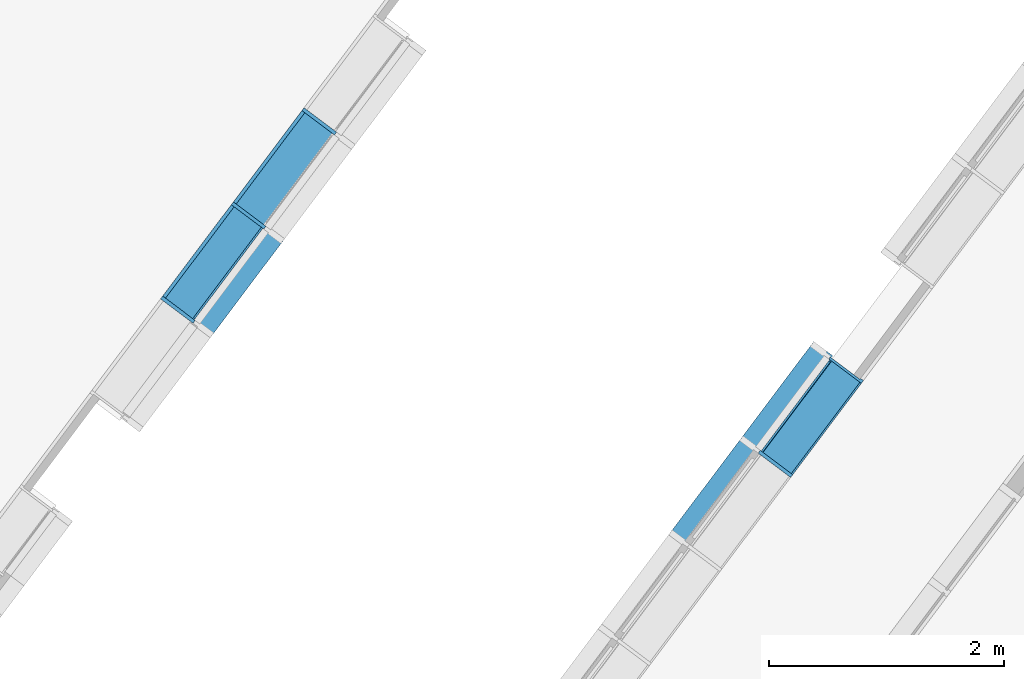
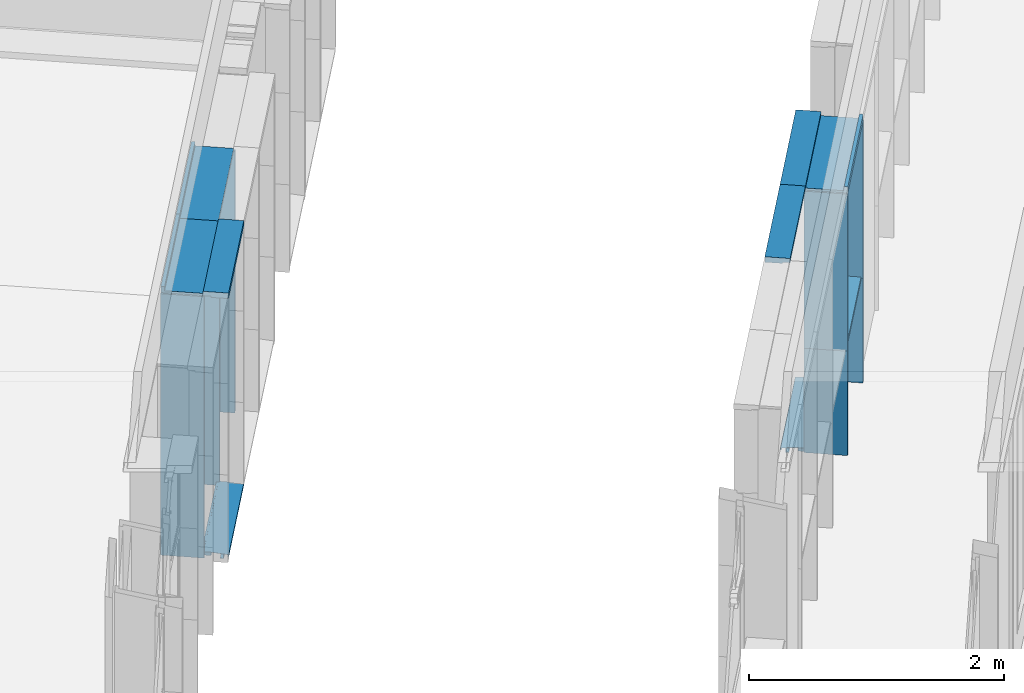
# One storey, part 41 of 243: 16 members, 4 elements without a shape of their own.
"""IFC2X3 building model written with IfcOpenShell, lengths in metres."""

from ifc_helpers import new_model, entity, si_unit, converted_unit, derived_unit, direction, frame, frame_2d, origin, place, context, subcontext, project, spatial, polyline, circle_curve, parameter, trimmed, segment, composite_curve, rectangle, outline, extrude, source, transform, mapped, material, type_object, type_shapes, element, aggregate, save


model = new_model("IFC2X3")

# Units and contexts
model_context = context("Model", 3, precision=1e-05, world=origin(), true_north=direction((6.123031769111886e-17, 1.0)))
body_context = subcontext(model_context, "Body", "Model", "MODEL_VIEW")
ifc_project = project(units=[si_unit("LENGTHUNIT", "METRE"), si_unit("AREAUNIT", "SQUARE_METRE"), si_unit("VOLUMEUNIT", "CUBIC_METRE"), converted_unit("PLANEANGLEUNIT", "DEGREE", entity("IfcRatioMeasure", 0.017453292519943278), si_unit("PLANEANGLEUNIT", "RADIAN"), dimensions=[0, 0, 0, 0, 0, 0, 0]), si_unit("MASSUNIT", "GRAM", prefix="KILO"), derived_unit("MASSDENSITYUNIT", [(si_unit("MASSUNIT", "GRAM", prefix="KILO"), 1), (si_unit("LENGTHUNIT", "METRE"), -3)]), derived_unit("IONCONCENTRATIONUNIT", [(si_unit("MASSUNIT", "GRAM", prefix="KILO"), 1), (si_unit("LENGTHUNIT", "METRE"), -3)]), derived_unit("MOMENTOFINERTIAUNIT", [(si_unit("LENGTHUNIT", "METRE"), 4)]), si_unit("TIMEUNIT", "SECOND"), si_unit("FREQUENCYUNIT", "HERTZ"), si_unit("THERMODYNAMICTEMPERATUREUNIT", "DEGREE_CELSIUS"), derived_unit("THERMALTRANSMITTANCEUNIT", [(si_unit("MASSUNIT", "GRAM", prefix="KILO"), 1), (si_unit("THERMODYNAMICTEMPERATUREUNIT", "KELVIN"), -1), (si_unit("TIMEUNIT", "SECOND"), -3)]), derived_unit("THERMALCONDUCTANCEUNIT", [(si_unit("MASSUNIT", "GRAM", prefix="KILO"), 1), (si_unit("THERMODYNAMICTEMPERATUREUNIT", "KELVIN"), -1), (si_unit("TIMEUNIT", "SECOND"), -3), (si_unit("LENGTHUNIT", "METRE"), 1)]), derived_unit("VOLUMETRICFLOWRATEUNIT", [(si_unit("LENGTHUNIT", "METRE"), 3), (si_unit("TIMEUNIT", "SECOND"), -1)]), derived_unit("MASSFLOWRATEUNIT", [(si_unit("MASSUNIT", "GRAM", prefix="KILO"), 1), (si_unit("TIMEUNIT", "SECOND"), -1)]), derived_unit("ROTATIONALFREQUENCYUNIT", [(si_unit("TIMEUNIT", "SECOND"), -1)]), si_unit("ELECTRICCURRENTUNIT", "AMPERE"), si_unit("ELECTRICVOLTAGEUNIT", "VOLT"), si_unit("POWERUNIT", "WATT"), si_unit("FORCEUNIT", "NEWTON", prefix="KILO"), si_unit("ILLUMINANCEUNIT", "LUX"), si_unit("LUMINOUSFLUXUNIT", "LUMEN"), si_unit("LUMINOUSINTENSITYUNIT", "CANDELA"), derived_unit("USERDEFINED", [(si_unit("MASSUNIT", "GRAM", prefix="KILO"), -1), (si_unit("LENGTHUNIT", "METRE"), -2), (si_unit("TIMEUNIT", "SECOND"), 3), (si_unit("LUMINOUSFLUXUNIT", "LUMEN"), 1)]), derived_unit("USERDEFINED", [(si_unit("MASSUNIT", "GRAM", prefix="KILO"), 1), (si_unit("TIMEUNIT", "SECOND"), -3), (si_unit("LENGTHUNIT", "METRE"), 3), (si_unit("ELECTRICCURRENTUNIT", "AMPERE"), -2)]), derived_unit("SOUNDPOWERUNIT", [(si_unit("MASSUNIT", "GRAM", prefix="KILO"), 1), (si_unit("TIMEUNIT", "SECOND"), -3), (si_unit("LENGTHUNIT", "METRE"), 2)]), derived_unit("SOUNDPRESSUREUNIT", [(si_unit("MASSUNIT", "GRAM", prefix="KILO"), 1), (si_unit("LENGTHUNIT", "METRE"), -1), (si_unit("TIMEUNIT", "SECOND"), -2)]), derived_unit("LINEARVELOCITYUNIT", [(si_unit("LENGTHUNIT", "METRE"), 1), (si_unit("TIMEUNIT", "SECOND"), -1)]), si_unit("PRESSUREUNIT", "PASCAL"), derived_unit("USERDEFINED", [(si_unit("MASSUNIT", "GRAM", prefix="KILO"), 1), (si_unit("LENGTHUNIT", "METRE"), -2), (si_unit("TIMEUNIT", "SECOND"), -2)]), derived_unit("LINEARFORCEUNIT", [(si_unit("MASSUNIT", "GRAM", prefix="KILO"), 1), (si_unit("TIMEUNIT", "SECOND"), -2)]), derived_unit("PLANARFORCEUNIT", [(si_unit("MASSUNIT", "GRAM", prefix="KILO"), 1), (si_unit("LENGTHUNIT", "METRE"), -1), (si_unit("TIMEUNIT", "SECOND"), -2)]), derived_unit("SPECIFICHEATCAPACITYUNIT", [(si_unit("THERMODYNAMICTEMPERATUREUNIT", "KELVIN"), -1), (si_unit("LENGTHUNIT", "METRE"), 2), (si_unit("TIMEUNIT", "SECOND"), -2)]), derived_unit("HEATINGVALUEUNIT", [(si_unit("LENGTHUNIT", "METRE"), 2), (si_unit("TIMEUNIT", "SECOND"), -2)]), derived_unit("VAPORPERMEABILITYUNIT", [(si_unit("LENGTHUNIT", "METRE"), -1), (si_unit("TIMEUNIT", "SECOND"), 1)]), derived_unit("DYNAMICVISCOSITYUNIT", [(si_unit("MASSUNIT", "GRAM", prefix="KILO"), 1), (si_unit("TIMEUNIT", "SECOND"), -1), (si_unit("LENGTHUNIT", "METRE"), -1)]), derived_unit("THERMALEXPANSIONCOEFFICIENTUNIT", [(si_unit("THERMODYNAMICTEMPERATUREUNIT", "KELVIN"), -1)]), derived_unit("MODULUSOFELASTICITYUNIT", [(si_unit("MASSUNIT", "GRAM", prefix="KILO"), 1), (si_unit("LENGTHUNIT", "METRE"), -1), (si_unit("TIMEUNIT", "SECOND"), -2)]), derived_unit("ISOTHERMALMOISTURECAPACITYUNIT", [(si_unit("LENGTHUNIT", "METRE"), 3), (si_unit("MASSUNIT", "GRAM", prefix="KILO"), -1)]), derived_unit("MOISTUREDIFFUSIVITYUNIT", [(si_unit("TIMEUNIT", "SECOND"), -1), (si_unit("LENGTHUNIT", "METRE"), 2)])], contexts=[model_context])

# Site, building, storey
site_placement = place(None, frame((0.0, 0.0, 235.0), z_axis=(0.0, 0.0, 1.0), x_axis=(-0.7996477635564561, 0.6004693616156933, 0.0)))
site = spatial("IfcSite", under=ifc_project, at=site_placement, Name="Default", CompositionType="ELEMENT")
building_placement = place(site_placement, origin())
building = spatial("IfcBuilding", under=site, at=building_placement, CompositionType="ELEMENT")
storey_placement = place(building_placement, origin())
storey = spatial("IfcBuildingStorey", under=building, at=storey_placement, Name="P0- Escola", CompositionType="ELEMENT", Elevation=0.0)

# Curtain wall, members
curtain_wall_type_1 = type_object("IfcCurtainWallType", Name="Muro cortina:MC- EXT- MC2", PredefinedType="NOTDEFINED")
curtain_wall_1_placement = place(storey_placement, origin())
curtain_wall_1 = element("IfcCurtainWall", 1, at=curtain_wall_1_placement, inside=storey, type_object=curtain_wall_type_1, Name="Muro cortina:MC- EXT- MC2", ObjectType="Muro cortina:MC- EXT- MC2")
ifc_material_1 = material(Name="_Alumini- T1- Perfil")
member_type_1 = type_object("IfcMemberType", Name="Montante rectangular:MC- Alu- 140x52,5 cm- Fa patis- Superior", PredefinedType="MULLION", material=ifc_material_1)
shared_shape_1 = source(origin(), body_context, "Body", "SweptSolid", [
    extrude(outline(polyline([(-0.11366666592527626, -0.021249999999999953), (0.026333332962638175, -0.021249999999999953), (0.026333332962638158, -0.010000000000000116), (0.0873333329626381, -0.010000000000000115), (0.0873333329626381, 0.03125000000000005), (-0.11366666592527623, 0.031250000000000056), (-0.11366666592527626, -0.021249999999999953)])), frame((-0.031250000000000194, 0.0273333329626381, -1.0), z_axis=(0.0, 0.0, 1.0), x_axis=(0.0, -1.0, 0.0)), (0.0, 0.0, 1.0), 0.9999999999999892),
])
type_shapes(member_type_1, [shared_shape_1])
member_1_placement = place(curtain_wall_1_placement, frame((66.44514768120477, -27.41519175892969, 2.545), z_axis=(0.0, -1.0, 0.0), x_axis=(0.0, 0.0, 1.0)))
member_1 = element("IfcMember", 2, at=member_1_placement, type_object=member_type_1, material=ifc_material_1, Name="Montante rectangular:MC- Alu- 140x52,5 cm- Fa patis- Superior", ObjectType="Montante rectangular:MC- Alu- 140x52,5 cm- Fa patis- Superior", context=body_context, shape_type="MappedRepresentation", body=[
    mapped(shared_shape_1, transform((0.0, 0.0, 0.0), scale=1.0)),
])
member_type_2 = type_object("IfcMemberType", Name="Montante rectangular:MC- Alu- 140x52,5 cm- Fa patis- inferior", PredefinedType="MULLION", material=ifc_material_1)
shared_shape_2 = source(origin(), body_context, "Body", "SweptSolid", [
    extrude(outline(composite_curve([segment(polyline([(0.1278672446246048, -0.02586710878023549), (0.14416724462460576, -0.025867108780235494)]), True, "CONTINUOUS"), segment(polyline([(0.14416724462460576, -0.025867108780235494), (0.1441672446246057, 0.009132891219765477)]), True, "CONTINUOUS"), segment(polyline([(0.1441672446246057, 0.009132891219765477), (0.06786724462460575, 0.009132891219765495)]), True, "CONTINUOUS"), segment(polyline([(0.06786724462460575, 0.009132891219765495), (0.06786724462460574, -0.021159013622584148)]), True, "CONTINUOUS"), segment(polyline([(0.06786724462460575, -0.02115901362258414), (-0.030132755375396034, -0.012332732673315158)]), True, "CONTINUOUS"), segment(polyline([(-0.03013275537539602, -0.012332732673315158), (-0.030132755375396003, 0.027132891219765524)]), True, "CONTINUOUS"), segment(polyline([(-0.030132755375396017, 0.02713289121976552), (-0.0021327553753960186, 0.02713289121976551)]), True, "CONTINUOUS"), segment(polyline([(-0.0021327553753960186, 0.027132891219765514), (-0.0021327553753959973, 0.029132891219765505)]), True, "CONTINUOUS"), segment(polyline([(-0.0021327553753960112, 0.029132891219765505), (-0.032132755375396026, 0.029132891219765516)]), True, "CONTINUOUS"), segment(polyline([(-0.032132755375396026, 0.029132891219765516), (-0.03213275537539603, -0.012152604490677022)]), True, "CONTINUOUS"), segment(polyline([(-0.03213275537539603, -0.012152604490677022), (-0.0701327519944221, -0.008730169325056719)]), True, "CONTINUOUS"), segment(polyline([(-0.0701327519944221, -0.008730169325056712), (-0.0701327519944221, 0.005766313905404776)]), True, "CONTINUOUS"), segment(trimmed(circle_curve(frame_2d((-0.0696327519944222, 0.0057663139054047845), x_axis=(-1.0, 0.0)), 0.0004999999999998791), [parameter(269.999999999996)], [parameter(0.0)], True, "PARAMETER"), False, "CONTINUOUS"), segment(polyline([(-0.0696327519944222, 0.00626631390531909), (-0.06213275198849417, 0.006266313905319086)]), True, "CONTINUOUS"), segment(polyline([(-0.06213275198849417, 0.006266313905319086), (-0.06213275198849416, 0.008266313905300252)]), True, "CONTINUOUS"), segment(polyline([(-0.06213275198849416, 0.008266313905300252), (-0.07013275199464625, 0.008266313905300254)]), True, "CONTINUOUS"), segment(trimmed(circle_curve(frame_2d((-0.07013275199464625, 0.006266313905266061), x_axis=(0.0, 1.0)), 0.0020000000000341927), [parameter(0.0)], [parameter(90.00000002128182)], True, "PARAMETER"), True, "CONTINUOUS"), segment(polyline([(-0.07213275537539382, 0.006266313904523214), (-0.07213275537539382, -0.008730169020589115)]), True, "CONTINUOUS"), segment(trimmed(circle_curve(frame_2d((-0.07013275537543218, -0.008730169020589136), x_axis=(-1.0, 0.0)), 0.0019999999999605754), [parameter(0.0)], [parameter(84.85359280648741)], True, "PARAMETER"), True, "CONTINUOUS"), segment(polyline([(-0.07031215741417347, -0.01072210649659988), (0.06786724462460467, -0.023167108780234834)]), True, "CONTINUOUS"), segment(polyline([(0.06786724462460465, -0.023167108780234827), (0.12786724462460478, -0.023167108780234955)]), True, "CONTINUOUS"), segment(polyline([(0.12786724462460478, -0.023167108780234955), (0.1278672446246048, -0.02586710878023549)]), True, "CONTINUOUS")], self_intersect=False)), frame((-0.029132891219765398, 0.06786724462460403, -0.9737499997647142), z_axis=(0.0, 0.0, 1.0), x_axis=(0.0, -1.0, 0.0)), (0.0, 0.0, 1.0), 0.9737499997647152),
])
type_shapes(member_type_2, [shared_shape_2])
member_2_placement = place(curtain_wall_1_placement, frame((66.44514768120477, -26.441441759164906, -0.02), z_axis=(0.0, 1.0, 0.0), x_axis=(0.0, 0.0, -1.0)))
member_2 = element("IfcMember", 3, at=member_2_placement, type_object=member_type_2, material=ifc_material_1, Name="Montante rectangular:MC- Alu- 140x52,5 cm- Fa patis- inferior", ObjectType="Montante rectangular:MC- Alu- 140x52,5 cm- Fa patis- inferior", context=body_context, shape_type="MappedRepresentation", body=[
    mapped(shared_shape_2, transform((0.0, 0.0, 0.0), scale=1.0)),
])
aggregate(curtain_wall_1, [member_2, member_1])

curtain_wall_type_2 = type_object("IfcCurtainWallType", Name="Muro cortina:MC- INT- k7- Aules infantil", PredefinedType="NOTDEFINED")
curtain_wall_2_placement = place(storey_placement, origin())
curtain_wall_2 = element("IfcCurtainWall", 4, at=curtain_wall_2_placement, inside=storey, type_object=curtain_wall_type_2, Name="Muro cortina:MC- INT- k7- Aules infantil", ObjectType="Muro cortina:MC- INT- k7- Aules infantil")
ifc_material_2 = material(Name="_Fusta massisa- T1")
member_type_3 = type_object("IfcMemberType", Name="Montante rectangular:MC- Fusta- 35x3 cm- Centre", PredefinedType="MULLION", material=ifc_material_2)
shared_shape_3 = source(origin(), body_context, "Body", "SweptSolid", [
    extrude(rectangle(XDim=0.3450000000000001, YDim=0.030000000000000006, at=frame_2d((0.0, 1.3964523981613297e-16), x_axis=(1.0, 0.0))), frame((0.0, 0.07750000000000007, -2.5049999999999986), z_axis=(0.0, 0.0, 1.0), x_axis=(0.0, -1.0, 0.0)), (0.0, 0.0, 1.0), 2.5049999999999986),
])
type_shapes(member_type_3, [shared_shape_3])
member_3_placement = place(curtain_wall_2_placement, frame((66.74514768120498, -26.41519175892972, 0.0), z_axis=(0.0, 0.0, -1.0), x_axis=(0.0, -1.0, 0.0)))
member_3 = element("IfcMember", 5, at=member_3_placement, type_object=member_type_3, material=ifc_material_2, Name="Montante rectangular:MC- Fusta- 35x3 cm- Centre", ObjectType="Montante rectangular:MC- Fusta- 35x3 cm- Centre", context=body_context, shape_type="MappedRepresentation", body=[
    mapped(shared_shape_3, transform((0.0, 0.0, 0.0), scale=1.0)),
])
member_4_placement = place(curtain_wall_2_placement, frame((66.74514768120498, -27.415191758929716, 0.0), z_axis=(0.0, 0.0, -1.0), x_axis=(0.0, -1.0, 0.0)))
member_4 = element("IfcMember", 6, at=member_4_placement, type_object=member_type_3, material=ifc_material_2, Name="Montante rectangular:MC- Fusta- 35x3 cm- Centre", ObjectType="Montante rectangular:MC- Fusta- 35x3 cm- Centre", context=body_context, shape_type="MappedRepresentation", body=[
    mapped(shared_shape_3, transform((0.0, 0.0, 0.0), scale=1.0)),
])
member_5_placement = place(curtain_wall_2_placement, frame((66.74514768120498, -28.415191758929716, 0.0), z_axis=(0.0, 0.0, -1.0), x_axis=(0.0, -1.0, 0.0)))
member_5 = element("IfcMember", 7, at=member_5_placement, type_object=member_type_3, material=ifc_material_2, Name="Montante rectangular:MC- Fusta- 35x3 cm- Centre", ObjectType="Montante rectangular:MC- Fusta- 35x3 cm- Centre", context=body_context, shape_type="MappedRepresentation", body=[
    mapped(shared_shape_3, transform((0.0, 0.0, 0.0), scale=1.0)),
])
member_type_4 = type_object("IfcMemberType", Name="Montante rectangular:MC- Fusta- 35x3 cm- Pati aules- Remat superior", PredefinedType="MULLION", material=ifc_material_2)
shared_shape_4 = source(origin(), body_context, "Body", "SweptSolid", [
    extrude(outline(polyline([(-0.21333333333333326, -0.02666666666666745), (0.1216666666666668, -0.02666666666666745), (0.12166666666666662, 0.03333333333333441), (0.09166666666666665, 0.03333333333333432), (0.09166666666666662, -0.006666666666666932), (-0.2133333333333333, -0.006666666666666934), (-0.21333333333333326, -0.02666666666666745)])), frame((-0.033333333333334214, 0.026666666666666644, -1.0), z_axis=(0.0, 0.0, 1.0), x_axis=(0.0, -1.0, 0.0)), (0.0, 0.0, 1.0), 0.9999999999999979),
])
type_shapes(member_type_4, [shared_shape_4])
member_6_placement = place(curtain_wall_2_placement, frame((66.74514768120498, -27.415191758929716, 2.565), z_axis=(0.0, -1.0, 0.0), x_axis=(0.0, 0.0, 1.0)))
member_6 = element("IfcMember", 8, at=member_6_placement, type_object=member_type_4, material=ifc_material_2, Name="Montante rectangular:MC- Fusta- 35x3 cm- Pati aules- Remat superior", ObjectType="Montante rectangular:MC- Fusta- 35x3 cm- Pati aules- Remat superior", context=body_context, shape_type="MappedRepresentation", body=[
    mapped(shared_shape_4, transform((0.0, 0.0, 0.0), scale=1.0)),
])
member_7_placement = place(curtain_wall_2_placement, frame((66.74514768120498, -28.415191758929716, 2.565), z_axis=(0.0, -1.0, 0.0), x_axis=(0.0, 0.0, 1.0)))
member_7 = element("IfcMember", 9, at=member_7_placement, type_object=member_type_4, material=ifc_material_2, Name="Montante rectangular:MC- Fusta- 35x3 cm- Pati aules- Remat superior", ObjectType="Montante rectangular:MC- Fusta- 35x3 cm- Pati aules- Remat superior", context=body_context, shape_type="MappedRepresentation", body=[
    mapped(shared_shape_4, transform((0.0, 0.0, 0.0), scale=1.0)),
])
aggregate(curtain_wall_2, [member_3, member_6, member_4, member_7, member_5])

curtain_wall_type_3 = type_object("IfcCurtainWallType", Name="Muro cortina:MC- INT- k2", PredefinedType="NOTDEFINED")
curtain_wall_3_placement = place(storey_placement, origin())
curtain_wall_3 = element("IfcCurtainWall", 10, at=curtain_wall_3_placement, inside=storey, type_object=curtain_wall_type_3, Name="Muro cortina:MC- INT- k2", ObjectType="Muro cortina:MC- INT- k2")
member_type_5 = type_object("IfcMemberType", Name="Montante rectangular:MC- Fusta- 35x3 cm- Centre", PredefinedType="MULLION", material=ifc_material_2)
shared_shape_5 = source(origin(), body_context, "Body", "SweptSolid", [
    extrude(rectangle(XDim=0.3450000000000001, YDim=0.030000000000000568, at=frame_2d((0.0, -1.3964523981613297e-16), x_axis=(1.0, 0.0))), frame((0.0, -0.07750000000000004, -1.0), z_axis=(0.0, 0.0, 1.0), x_axis=(0.0, -1.0, 0.0)), (0.0, 0.0, 1.0), 1.0),
])
type_shapes(member_type_5, [shared_shape_5])
member_8_placement = place(curtain_wall_3_placement, frame((61.74514768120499, -28.415191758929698, 0.0), z_axis=(0.0, 0.0, -1.0), x_axis=(0.0, -1.0, 0.0)))
member_8 = element("IfcMember", 11, at=member_8_placement, type_object=member_type_5, material=ifc_material_2, Name="Montante rectangular:MC- Fusta- 35x3 cm- Centre", ObjectType="Montante rectangular:MC- Fusta- 35x3 cm- Centre", context=body_context, shape_type="MappedRepresentation", body=[
    mapped(shared_shape_5, transform((0.0, 0.0, 0.0), scale=1.0)),
])
member_type_6 = type_object("IfcMemberType", Name="Montante rectangular:MC- Fusta- 35x3 cm- Pati aules- Remat superior", PredefinedType="MULLION", material=ifc_material_2)
shared_shape_6 = source(origin(), body_context, "Body", "SweptSolid", [
    extrude(outline(polyline([(-0.12166666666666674, -0.02666666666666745), (0.21333333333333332, -0.02666666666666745), (0.2133333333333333, -0.006666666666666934), (-0.09166666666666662, -0.006666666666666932), (-0.09166666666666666, 0.03333333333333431), (-0.12166666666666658, 0.03333333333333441), (-0.12166666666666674, -0.02666666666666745)])), frame((-0.033333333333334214, -0.026666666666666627, -1.0), z_axis=(0.0, 0.0, 1.0), x_axis=(0.0, -1.0, 0.0)), (0.0, 0.0, 1.0), 0.9999999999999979),
])
type_shapes(member_type_6, [shared_shape_6])
member_9_placement = place(curtain_wall_3_placement, frame((61.74514768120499, -29.415191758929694, 2.565), z_axis=(0.0, -1.0, 0.0), x_axis=(0.0, 0.0, 1.0)))
member_9 = element("IfcMember", 12, at=member_9_placement, type_object=member_type_6, material=ifc_material_2, Name="Montante rectangular:MC- Fusta- 35x3 cm- Pati aules- Remat superior", ObjectType="Montante rectangular:MC- Fusta- 35x3 cm- Pati aules- Remat superior", context=body_context, shape_type="MappedRepresentation", body=[
    mapped(shared_shape_6, transform((0.0, 0.0, 0.0), scale=1.0)),
])
member_type_7 = type_object("IfcMemberType", Name="Montante rectangular:MC- Fusta- 35x3 cm- Pati aules- Remat dreta", PredefinedType="MULLION", material=ifc_material_2)
shared_shape_7 = source(origin(), body_context, "Body", "SweptSolid", [
    extrude(outline(polyline([(-0.12500000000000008, -0.01666666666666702), (0.22, -0.01666666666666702), (0.22000000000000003, 0.003333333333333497), (-0.09499999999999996, 0.003333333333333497), (-0.09499999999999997, 0.013333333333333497), (-0.12500000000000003, 0.013333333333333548), (-0.12500000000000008, -0.01666666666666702)])), frame((0.00166666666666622, -0.03000000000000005, -1.0), z_axis=(0.0, 0.0, 1.0), x_axis=(0.0, -1.0, 0.0)), (0.0, 0.0, 1.0), 1.0),
])
type_shapes(member_type_7, [shared_shape_7])
member_10_placement = place(curtain_wall_3_placement, frame((61.74514768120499, -29.415191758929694, 0.0), z_axis=(0.0, 0.0, -1.0), x_axis=(0.0, -1.0, 0.0)))
member_10 = element("IfcMember", 13, at=member_10_placement, type_object=member_type_7, material=ifc_material_2, Name="Montante rectangular:MC- Fusta- 35x3 cm- Pati aules- Remat dreta", ObjectType="Montante rectangular:MC- Fusta- 35x3 cm- Pati aules- Remat dreta", context=body_context, shape_type="MappedRepresentation", body=[
    mapped(shared_shape_7, transform((0.0, 0.0, 0.0), scale=1.0)),
])
member_type_8 = type_object("IfcMemberType", Name="Montante rectangular:MC- Fusta- 35x3 cm- Pati aules- Prestatge", PredefinedType="MULLION", material=ifc_material_2)
shared_shape_8 = source(origin(), body_context, "Body", "SweptSolid", [
    extrude(rectangle(XDim=0.30000000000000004, YDim=0.03000000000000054, at=frame_2d((0.0, -1.231653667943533e-16), x_axis=(1.0, 0.0))), frame((0.0, -0.07000000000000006, -0.9699999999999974), z_axis=(0.0, 0.0, 1.0), x_axis=(0.0, -1.0, 0.0)), (0.0, 0.0, 1.0), 0.969999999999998),
])
type_shapes(member_type_8, [shared_shape_8])
member_11_placement = place(curtain_wall_3_placement, frame((61.74514768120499, -29.400191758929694, 1.0), z_axis=(0.0, -1.0, 0.0), x_axis=(0.0, 0.0, 1.0)))
member_11 = element("IfcMember", 14, at=member_11_placement, type_object=member_type_8, material=ifc_material_2, Name="Montante rectangular:MC- Fusta- 35x3 cm- Pati aules- Prestatge", ObjectType="Montante rectangular:MC- Fusta- 35x3 cm- Pati aules- Prestatge", context=body_context, shape_type="MappedRepresentation", body=[
    mapped(shared_shape_8, transform((0.0, 0.0, 0.0), scale=1.0)),
])
member_type_9 = type_object("IfcMemberType", Name="Montante rectangular:MC- Fusta- 35x3 cm- Centre", PredefinedType="MULLION", material=ifc_material_2)
shared_shape_9 = source(origin(), body_context, "Body", "SweptSolid", [
    extrude(rectangle(XDim=0.3450000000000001, YDim=0.030000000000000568, at=frame_2d((0.0, -1.3964523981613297e-16), x_axis=(1.0, 0.0))), frame((0.0, -0.07750000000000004, -1.504999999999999), z_axis=(0.0, 0.0, 1.0), x_axis=(0.0, -1.0, 0.0)), (0.0, 0.0, 1.0), 1.504999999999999),
])
type_shapes(member_type_9, [shared_shape_9])
member_12_placement = place(curtain_wall_3_placement, frame((61.74514768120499, -28.415191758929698, 1.0), z_axis=(0.0, 0.0, -1.0), x_axis=(0.0, -1.0, 0.0)))
member_12 = element("IfcMember", 15, at=member_12_placement, type_object=member_type_9, material=ifc_material_2, Name="Montante rectangular:MC- Fusta- 35x3 cm- Centre", ObjectType="Montante rectangular:MC- Fusta- 35x3 cm- Centre", context=body_context, shape_type="MappedRepresentation", body=[
    mapped(shared_shape_9, transform((0.0, 0.0, 0.0), scale=1.0)),
])
member_type_10 = type_object("IfcMemberType", Name="Montante rectangular:MC- Fusta- 35x3 cm- Pati aules- Remat dreta", PredefinedType="MULLION", material=ifc_material_2)
shared_shape_10 = source(origin(), body_context, "Body", "SweptSolid", [
    extrude(outline(polyline([(-0.12500000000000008, -0.01666666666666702), (0.22, -0.01666666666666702), (0.22000000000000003, 0.003333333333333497), (-0.09499999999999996, 0.003333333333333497), (-0.09499999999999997, 0.013333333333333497), (-0.12500000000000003, 0.013333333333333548), (-0.12500000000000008, -0.01666666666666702)])), frame((0.00166666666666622, -0.03000000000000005, -1.504999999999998), z_axis=(0.0, 0.0, 1.0), x_axis=(0.0, -1.0, 0.0)), (0.0, 0.0, 1.0), 1.504999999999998),
])
type_shapes(member_type_10, [shared_shape_10])
member_13_placement = place(curtain_wall_3_placement, frame((61.74514768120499, -29.415191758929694, 1.0), z_axis=(0.0, 0.0, -1.0), x_axis=(0.0, -1.0, 0.0)))
member_13 = element("IfcMember", 16, at=member_13_placement, type_object=member_type_10, material=ifc_material_2, Name="Montante rectangular:MC- Fusta- 35x3 cm- Pati aules- Remat dreta", ObjectType="Montante rectangular:MC- Fusta- 35x3 cm- Pati aules- Remat dreta", context=body_context, shape_type="MappedRepresentation", body=[
    mapped(shared_shape_10, transform((0.0, 0.0, 0.0), scale=1.0)),
])
aggregate(curtain_wall_3, [member_8, member_9, member_10, member_11, member_12, member_13])

curtain_wall_type_4 = type_object("IfcCurtainWallType", Name="Muro cortina:MC- EXT- MC5", PredefinedType="NOTDEFINED")
curtain_wall_4_placement = place(storey_placement, origin())
curtain_wall_4 = element("IfcCurtainWall", 17, at=curtain_wall_4_placement, inside=storey, type_object=curtain_wall_type_4, Name="Muro cortina:MC- EXT- MC5", ObjectType="Muro cortina:MC- EXT- MC5")
member_type_11 = type_object("IfcMemberType", Name="Montante rectangular:MC- Alu- 140x52,5 cm- Fa patis- Superior", PredefinedType="MULLION", material=ifc_material_1)
shared_shape_11 = source(origin(), body_context, "Body", "SweptSolid", [
    extrude(outline(polyline([(-0.026333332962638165, -0.021249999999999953), (0.11366666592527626, -0.021249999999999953), (0.11366666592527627, 0.031250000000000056), (-0.08733333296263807, 0.03125000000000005), (-0.0873333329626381, -0.010000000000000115), (-0.026333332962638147, -0.010000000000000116), (-0.026333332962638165, -0.021249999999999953)])), frame((-0.031250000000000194, -0.02733333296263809, -1.0), z_axis=(0.0, 0.0, 1.0), x_axis=(0.0, -1.0, 0.0)), (0.0, 0.0, 1.0), 1.0000000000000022),
])
type_shapes(member_type_11, [shared_shape_11])
member_14_placement = place(curtain_wall_4_placement, frame((62.045147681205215, -28.415191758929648, 2.545), z_axis=(0.0, -1.0, 0.0), x_axis=(0.0, 0.0, 1.0)))
member_14 = element("IfcMember", 18, at=member_14_placement, type_object=member_type_11, material=ifc_material_1, Name="Montante rectangular:MC- Alu- 140x52,5 cm- Fa patis- Superior", ObjectType="Montante rectangular:MC- Alu- 140x52,5 cm- Fa patis- Superior", context=body_context, shape_type="MappedRepresentation", body=[
    mapped(shared_shape_11, transform((0.0, 0.0, 0.0), scale=1.0)),
])
member_type_12 = type_object("IfcMemberType", Name="Montante rectangular:MC- Alu- 140x52,5 cm- Fa patis- inferior", PredefinedType="MULLION", material=ifc_material_1)
shared_shape_12 = source(origin(), body_context, "Body", "SweptSolid", [
    extrude(outline(composite_curve([segment(polyline([(-0.144167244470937, -0.025867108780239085), (-0.12786724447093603, -0.02586710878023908)]), True, "CONTINUOUS"), segment(polyline([(-0.12786724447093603, -0.02586710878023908), (-0.12786724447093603, -0.023167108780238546)]), True, "CONTINUOUS"), segment(polyline([(-0.12786724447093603, -0.023167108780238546), (-0.0678672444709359, -0.023167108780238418)]), True, "CONTINUOUS"), segment(polyline([(-0.0678672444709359, -0.023167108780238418), (0.07031215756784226, -0.010722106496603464)]), True, "CONTINUOUS"), segment(trimmed(circle_curve(frame_2d((0.07013275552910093, -0.008730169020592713), x_axis=(0.0897010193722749, -0.9959687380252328)), 0.0019999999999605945), [parameter(0.0)], [parameter(84.8535928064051)], True, "PARAMETER"), True, "CONTINUOUS"), segment(polyline([(0.07213275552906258, -0.008730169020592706), (0.07213275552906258, 0.006266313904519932)]), True, "CONTINUOUS"), segment(trimmed(circle_curve(frame_2d((0.07013275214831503, 0.006266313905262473), x_axis=(1.0, 0.0)), 0.0020000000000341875), [parameter(0.0)], [parameter(90.00000002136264)], True, "PARAMETER"), True, "CONTINUOUS"), segment(polyline([(0.070132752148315, 0.008266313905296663), (0.06213275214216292, 0.008266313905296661)]), True, "CONTINUOUS"), segment(polyline([(0.06213275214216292, 0.008266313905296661), (0.06213275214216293, 0.006266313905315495)]), True, "CONTINUOUS"), segment(polyline([(0.06213275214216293, 0.006266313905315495), (0.06963275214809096, 0.006266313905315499)]), True, "CONTINUOUS"), segment(trimmed(circle_curve(frame_2d((0.06963275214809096, 0.005766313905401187), x_axis=(0.0, 1.0)), 0.0004999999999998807), [parameter(269.9999999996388)], [parameter(0.0)], True, "PARAMETER"), False, "CONTINUOUS"), segment(polyline([(0.07013275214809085, 0.005766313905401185), (0.07013275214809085, -0.008730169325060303)]), True, "CONTINUOUS"), segment(polyline([(0.07013275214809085, -0.008730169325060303), (0.03213275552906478, -0.012152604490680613)]), True, "CONTINUOUS"), segment(polyline([(0.03213275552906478, -0.0121526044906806), (0.03213275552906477, 0.029132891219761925)]), True, "CONTINUOUS"), segment(polyline([(0.03213275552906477, 0.029132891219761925), (0.0021327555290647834, 0.029132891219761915)]), True, "CONTINUOUS"), segment(polyline([(0.0021327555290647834, 0.029132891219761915), (0.0021327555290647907, 0.02713289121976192)]), True, "CONTINUOUS"), segment(polyline([(0.0021327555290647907, 0.02713289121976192), (0.03013275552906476, 0.02713289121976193)]), True, "CONTINUOUS"), segment(polyline([(0.03013275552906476, 0.027132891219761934), (0.03013275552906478, -0.012332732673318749)]), True, "CONTINUOUS"), segment(polyline([(0.03013275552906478, -0.012332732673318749), (-0.06786724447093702, -0.021159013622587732)]), True, "CONTINUOUS"), segment(polyline([(-0.06786724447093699, -0.02115901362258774), (-0.067867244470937, 0.009132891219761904)]), True, "CONTINUOUS"), segment(polyline([(-0.06786724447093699, 0.009132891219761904), (-0.14416724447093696, 0.009132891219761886)]), True, "CONTINUOUS"), segment(polyline([(-0.14416724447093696, 0.009132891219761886), (-0.144167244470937, -0.025867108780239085)]), True, "CONTINUOUS")], self_intersect=False)), frame((-0.029132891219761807, -0.06786724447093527, -0.9737499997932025), z_axis=(0.0, 0.0, 1.0), x_axis=(0.0, -1.0, 0.0)), (0.0, 0.0, 1.0), 0.9737499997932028),
])
type_shapes(member_type_12, [shared_shape_12])
member_15_placement = place(curtain_wall_4_placement, frame((62.045147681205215, -28.415191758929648, -0.02), z_axis=(0.0, 1.0, 0.0), x_axis=(0.0, 0.0, -1.0)))
member_15 = element("IfcMember", 19, at=member_15_placement, type_object=member_type_12, material=ifc_material_1, Name="Montante rectangular:MC- Alu- 140x52,5 cm- Fa patis- inferior", ObjectType="Montante rectangular:MC- Alu- 140x52,5 cm- Fa patis- inferior", context=body_context, shape_type="MappedRepresentation", body=[
    mapped(shared_shape_12, transform((0.0, 0.0, 0.0), scale=1.0)),
])
member_type_13 = type_object("IfcMemberType", Name="Montante rectangular:MC- Alu- 140x52,5 cm- Fa patis- Superior", PredefinedType="MULLION", material=ifc_material_1)
shared_shape_13 = source(origin(), body_context, "Body", "SweptSolid", [
    extrude(outline(polyline([(-0.026333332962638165, -0.021249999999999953), (0.11366666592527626, -0.021249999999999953), (0.11366666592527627, 0.031250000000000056), (-0.08733333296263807, 0.03125000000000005), (-0.0873333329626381, -0.010000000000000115), (-0.026333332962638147, -0.010000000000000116), (-0.026333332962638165, -0.021249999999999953)])), frame((-0.031250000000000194, -0.02733333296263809, -1.0262500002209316), z_axis=(0.0, 0.0, 1.0), x_axis=(0.0, -1.0, 0.0)), (0.0, 0.0, 1.0), 1.0262500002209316),
])
type_shapes(member_type_13, [shared_shape_13])
member_16_placement = place(curtain_wall_4_placement, frame((62.045147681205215, -29.441441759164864, 2.545), z_axis=(0.0, -1.0, 0.0), x_axis=(0.0, 0.0, 1.0)))
member_16 = element("IfcMember", 20, at=member_16_placement, type_object=member_type_13, material=ifc_material_1, Name="Montante rectangular:MC- Alu- 140x52,5 cm- Fa patis- Superior", ObjectType="Montante rectangular:MC- Alu- 140x52,5 cm- Fa patis- Superior", context=body_context, shape_type="MappedRepresentation", body=[
    mapped(shared_shape_13, transform((0.0, 0.0, 0.0), scale=1.0)),
])
aggregate(curtain_wall_4, [member_14, member_15, member_16])

save(model, "model.ifc")
